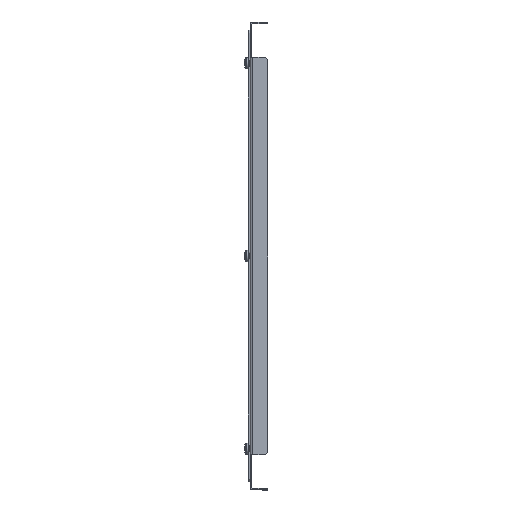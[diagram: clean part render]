
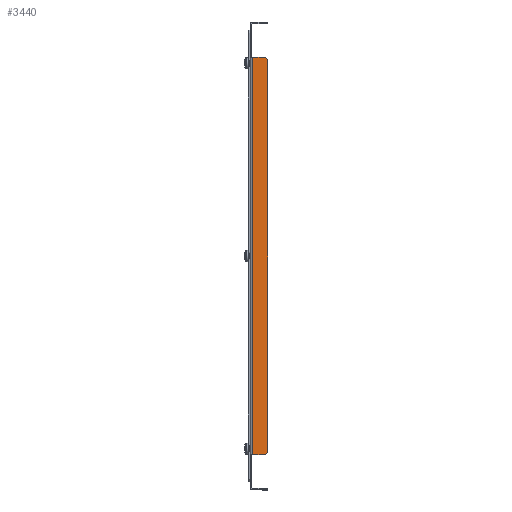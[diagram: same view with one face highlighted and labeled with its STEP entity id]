
A CAD part, left-side view. The second image highlights one B-rep face of the part: STEP entity #3440.
In plain terms, the highlighted planar face has unit normal (-1, 0, 0).
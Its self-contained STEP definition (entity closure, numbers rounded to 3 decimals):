
#203 = VERTEX_POINT ( 'NONE', #3933 ) ;
#422 = VERTEX_POINT ( 'NONE', #1049 ) ;
#462 = VECTOR ( 'NONE', #3624, 1000. ) ;
#468 = EDGE_CURVE ( 'NONE', #4325, #3899, #719, .T. ) ;
#585 = CARTESIAN_POINT ( 'NONE',  ( -14., -13., 168. ) ) ;
#593 = DIRECTION ( 'NONE',  ( 0., 0.707, 0.707 ) ) ;
#678 = VECTOR ( 'NONE', #5115, 1000. ) ;
#719 = LINE ( 'NONE', #585, #5738 ) ;
#849 = LINE ( 'NONE', #5154, #678 ) ;
#906 = EDGE_CURVE ( 'NONE', #3695, #3899, #2380, .T. ) ;
#1049 = CARTESIAN_POINT ( 'NONE',  ( -14., -13., -168. ) ) ;
#1061 = CARTESIAN_POINT ( 'NONE',  ( -14., -2.1, -168. ) ) ;
#1276 = EDGE_CURVE ( 'NONE', #6023, #3695, #4531, .T. ) ;
#1370 = DIRECTION ( 'NONE',  ( 0., 0., -1. ) ) ;
#1396 = CARTESIAN_POINT ( 'NONE',  ( -14., -15., 168. ) ) ;
#1731 = ORIENTED_EDGE ( 'NONE', *, *, #906, .F. ) ;
#1736 = CARTESIAN_POINT ( 'NONE',  ( -14., -1.5, 168. ) ) ;
#1763 = DIRECTION ( 'NONE',  ( 0., -1., 0. ) ) ;
#1929 = CARTESIAN_POINT ( 'NONE',  ( -14., -15., 166. ) ) ;
#2065 = FACE_OUTER_BOUND ( 'NONE', #4350, .T. ) ;
#2380 = LINE ( 'NONE', #1736, #2528 ) ;
#2528 = VECTOR ( 'NONE', #1763, 1000. ) ;
#2767 = ORIENTED_EDGE ( 'NONE', *, *, #1276, .F. ) ;
#2930 = VECTOR ( 'NONE', #1370, 1000. ) ;
#3043 = CARTESIAN_POINT ( 'NONE',  ( -14., -13., 168. ) ) ;
#3165 = EDGE_CURVE ( 'NONE', #422, #6023, #849, .T. ) ;
#3440 = ADVANCED_FACE ( 'NONE', ( #2065 ), #4441, .F. ) ;
#3624 = DIRECTION ( 'NONE',  ( 0., 0., 1. ) ) ;
#3628 = CARTESIAN_POINT ( 'NONE',  ( -14., -2.1, 168. ) ) ;
#3695 = VERTEX_POINT ( 'NONE', #3628 ) ;
#3839 = DIRECTION ( 'NONE',  ( 0., -0.707, 0.707 ) ) ;
#3899 = VERTEX_POINT ( 'NONE', #3043 ) ;
#3923 = ORIENTED_EDGE ( 'NONE', *, *, #468, .T. ) ;
#3933 = CARTESIAN_POINT ( 'NONE',  ( -14., -15., -166. ) ) ;
#3959 = VECTOR ( 'NONE', #3839, 1000. ) ;
#4126 = LINE ( 'NONE', #6235, #3959 ) ;
#4292 = LINE ( 'NONE', #1396, #2930 ) ;
#4325 = VERTEX_POINT ( 'NONE', #1929 ) ;
#4336 = DIRECTION ( 'NONE',  ( 0., 1., 0. ) ) ;
#4338 = DIRECTION ( 'NONE',  ( 1., 0., 0. ) ) ;
#4346 = CARTESIAN_POINT ( 'NONE',  ( -14., 0., 0. ) ) ;
#4350 = EDGE_LOOP ( 'NONE', ( #5259, #5336, #6324, #3923, #1731, #2767 ) ) ;
#4437 = CARTESIAN_POINT ( 'NONE',  ( -14., -2.1, 168. ) ) ;
#4441 = PLANE ( 'NONE',  #5194 ) ;
#4487 = EDGE_CURVE ( 'NONE', #4325, #203, #4292, .T. ) ;
#4531 = LINE ( 'NONE', #4437, #462 ) ;
#5083 = EDGE_CURVE ( 'NONE', #422, #203, #4126, .T. ) ;
#5115 = DIRECTION ( 'NONE',  ( 0., 1., 0. ) ) ;
#5154 = CARTESIAN_POINT ( 'NONE',  ( -14., -15., -168. ) ) ;
#5194 = AXIS2_PLACEMENT_3D ( 'NONE', #4346, #4338, #4336 ) ;
#5259 = ORIENTED_EDGE ( 'NONE', *, *, #3165, .F. ) ;
#5336 = ORIENTED_EDGE ( 'NONE', *, *, #5083, .T. ) ;
#5738 = VECTOR ( 'NONE', #593, 1000. ) ;
#6023 = VERTEX_POINT ( 'NONE', #1061 ) ;
#6235 = CARTESIAN_POINT ( 'NONE',  ( -14., -15., -166. ) ) ;
#6324 = ORIENTED_EDGE ( 'NONE', *, *, #4487, .F. ) ;
